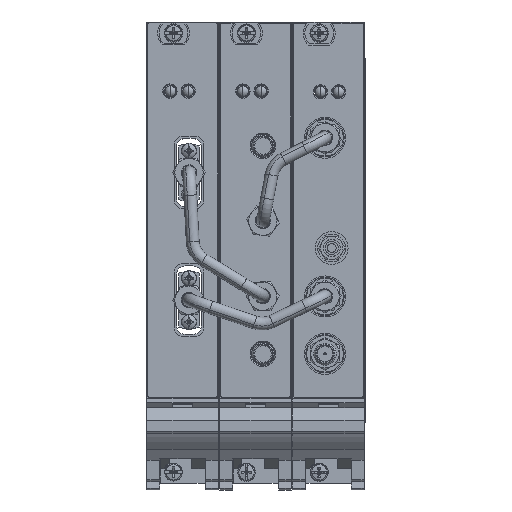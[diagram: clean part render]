
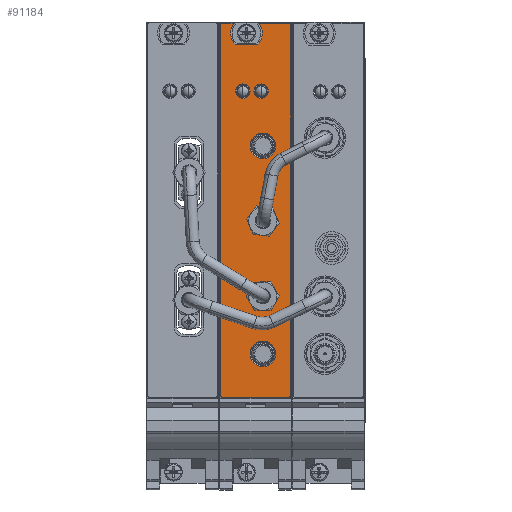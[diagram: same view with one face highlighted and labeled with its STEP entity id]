
A CAD part, top view. The second image highlights one B-rep face of the part: STEP entity #91184.
In plain terms, the highlighted planar face has unit normal (0, 0, 1).
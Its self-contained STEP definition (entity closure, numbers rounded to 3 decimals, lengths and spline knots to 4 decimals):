
#84187=CARTESIAN_POINT('',(1.466,4.2524,0.3575));
#84188=DIRECTION('',(0.,0.,1.));
#84189=DIRECTION('',(1.,0.,0.));
#84190=AXIS2_PLACEMENT_3D('',#84187,#84188,#84189);
#84192=DIRECTION('',(0.,1.,0.));
#84193=VECTOR('',#84192,4.07);
#84194=CARTESIAN_POINT('',(1.486,0.1824,0.3575));
#84195=LINE('',#84194,#84193);
#84196=CARTESIAN_POINT('',(1.466,0.1824,0.3575));
#84197=DIRECTION('',(0.,0.,1.));
#84198=DIRECTION('',(0.,-1.,0.));
#84199=AXIS2_PLACEMENT_3D('',#84196,#84197,#84198);
#84201=DIRECTION('',(1.,0.,0.));
#84202=VECTOR('',#84201,0.728);
#84203=CARTESIAN_POINT('',(0.738,0.1624,0.3575));
#84204=LINE('',#84203,#84202);
#84205=CARTESIAN_POINT('',(0.738,0.1824,0.3575));
#84206=DIRECTION('',(0.,0.,1.));
#84207=DIRECTION('',(-1.,0.,0.));
#84208=AXIS2_PLACEMENT_3D('',#84205,#84206,#84207);
#84210=DIRECTION('',(0.,-1.,0.));
#84211=VECTOR('',#84210,4.07);
#84212=CARTESIAN_POINT('',(0.718,4.2524,0.3575));
#84213=LINE('',#84212,#84211);
#84214=CARTESIAN_POINT('',(0.738,4.2524,0.3575));
#84215=DIRECTION('',(0.,0.,1.));
#84216=DIRECTION('',(0.,1.,0.));
#84217=AXIS2_PLACEMENT_3D('',#84214,#84215,#84216);
#84219=DIRECTION('',(-1.,0.,0.));
#84220=VECTOR('',#84219,0.1295);
#84221=CARTESIAN_POINT('',(0.8675,4.2724,
0.3575));
#84222=LINE('',#84221,#84220);
#84223=CARTESIAN_POINT('',(1.002,4.1604,0.3575));
#84224=DIRECTION('',(0.,0.,-1.));
#84225=DIRECTION('',(-0.676,-0.737,0.));
#84226=AXIS2_PLACEMENT_3D('',#84223,#84224,#84225);
#84228=DIRECTION('',(-1.,0.,0.));
#84229=VECTOR('',#84228,0.2365);
#84230=CARTESIAN_POINT('',(1.1202,4.0314,
0.3575));
#84231=LINE('',#84230,#84229);
#84232=CARTESIAN_POINT('',(1.002,4.1604,0.3575));
#84233=DIRECTION('',(0.,0.,-1.));
#84234=DIRECTION('',(0.768,0.64,0.));
#84235=AXIS2_PLACEMENT_3D('',#84232,#84233,#84234);
#84237=DIRECTION('',(-1.,0.,0.));
#84238=VECTOR('',#84237,0.3295);
#84239=CARTESIAN_POINT('',(1.466,4.2724,0.3575));
#84240=LINE('',#84239,#84238);
#84241=CARTESIAN_POINT('',(1.1823,0.64,0.3575));
#84242=DIRECTION('',(0.,0.,1.));
#84243=DIRECTION('',(0.,-1.,0.));
#84244=AXIS2_PLACEMENT_3D('',#84241,#84242,#84243);
#84246=CARTESIAN_POINT('',(1.1823,0.64,0.3575));
#84247=DIRECTION('',(0.,0.,1.));
#84248=DIRECTION('',(0.,1.,0.));
#84249=AXIS2_PLACEMENT_3D('',#84246,#84247,#84248);
#84251=CARTESIAN_POINT('',(1.1823,1.2699,0.3575));
#84252=DIRECTION('',(0.,0.,1.));
#84253=DIRECTION('',(0.,-1.,0.));
#84254=AXIS2_PLACEMENT_3D('',#84251,#84252,#84253);
#84256=CARTESIAN_POINT('',(1.1823,1.2699,0.3575));
#84257=DIRECTION('',(0.,0.,1.));
#84258=DIRECTION('',(0.,1.,0.));
#84259=AXIS2_PLACEMENT_3D('',#84256,#84257,#84258);
#84261=CARTESIAN_POINT('',(1.1823,2.0967,0.3575));
#84262=DIRECTION('',(0.,0.,1.));
#84263=DIRECTION('',(0.,-1.,0.));
#84264=AXIS2_PLACEMENT_3D('',#84261,#84262,#84263);
#84266=CARTESIAN_POINT('',(1.1823,2.0967,0.3575));
#84267=DIRECTION('',(0.,0.,1.));
#84268=DIRECTION('',(0.,1.,0.));
#84269=AXIS2_PLACEMENT_3D('',#84266,#84267,#84268);
#84271=CARTESIAN_POINT('',(1.1823,2.9234,0.3575));
#84272=DIRECTION('',(0.,0.,1.));
#84273=DIRECTION('',(0.,-1.,0.));
#84274=AXIS2_PLACEMENT_3D('',#84271,#84272,#84273);
#84276=CARTESIAN_POINT('',(1.1823,2.9234,0.3575));
#84277=DIRECTION('',(0.,0.,1.));
#84278=DIRECTION('',(0.,1.,0.));
#84279=AXIS2_PLACEMENT_3D('',#84276,#84277,#84278);
#84281=CARTESIAN_POINT('',(1.163,3.525,0.3575));
#84282=DIRECTION('',(0.,0.,1.));
#84283=DIRECTION('',(1.,0.,0.));
#84284=AXIS2_PLACEMENT_3D('',#84281,#84282,#84283);
#84286=CARTESIAN_POINT('',(1.163,3.525,0.3575));
#84287=DIRECTION('',(0.,0.,1.));
#84288=DIRECTION('',(-1.,0.,0.));
#84289=AXIS2_PLACEMENT_3D('',#84286,#84287,#84288);
#84291=CARTESIAN_POINT('',(0.963,3.525,0.3575));
#84292=DIRECTION('',(0.,0.,1.));
#84293=DIRECTION('',(1.,0.,0.));
#84294=AXIS2_PLACEMENT_3D('',#84291,#84292,#84293);
#84296=CARTESIAN_POINT('',(0.963,3.525,0.3575));
#84297=DIRECTION('',(0.,0.,1.));
#84298=DIRECTION('',(-1.,0.,0.));
#84299=AXIS2_PLACEMENT_3D('',#84296,#84297,#84298);
#86383=CARTESIAN_POINT('',(1.486,4.2524,0.3575));
#86384=CARTESIAN_POINT('',(1.466,4.2724,0.3575));
#86385=VERTEX_POINT('',#86383);
#86386=VERTEX_POINT('',#86384);
#86387=CARTESIAN_POINT('',(1.1365,4.2724,
0.3575));
#86388=VERTEX_POINT('',#86387);
#86389=CARTESIAN_POINT('',(1.1202,4.0314,
0.3575));
#86390=VERTEX_POINT('',#86389);
#86391=CARTESIAN_POINT('',(0.8837,4.0314,
0.3575));
#86392=VERTEX_POINT('',#86391);
#86393=CARTESIAN_POINT('',(0.8675,4.2724,
0.3575));
#86394=VERTEX_POINT('',#86393);
#86395=CARTESIAN_POINT('',(0.738,4.2724,0.3575));
#86396=VERTEX_POINT('',#86395);
#86397=CARTESIAN_POINT('',(0.718,4.2524,0.3575));
#86398=VERTEX_POINT('',#86397);
#86399=CARTESIAN_POINT('',(0.718,0.1824,0.3575));
#86400=VERTEX_POINT('',#86399);
#86401=CARTESIAN_POINT('',(0.738,0.1624,0.3575));
#86402=VERTEX_POINT('',#86401);
#86403=CARTESIAN_POINT('',(1.466,0.1624,0.3575));
#86404=VERTEX_POINT('',#86403);
#86405=CARTESIAN_POINT('',(1.486,0.1824,0.3575));
#86406=VERTEX_POINT('',#86405);
#86407=CARTESIAN_POINT('',(1.1823,0.5,0.3575));
#86408=CARTESIAN_POINT('',(1.1823,0.78,0.3575));
#86409=VERTEX_POINT('',#86407);
#86410=VERTEX_POINT('',#86408);
#86411=CARTESIAN_POINT('',(1.1823,1.1299,0.3575));
#86412=CARTESIAN_POINT('',(1.1823,1.4099,0.3575));
#86413=VERTEX_POINT('',#86411);
#86414=VERTEX_POINT('',#86412);
#86415=CARTESIAN_POINT('',(1.1823,1.9567,0.3575));
#86416=CARTESIAN_POINT('',(1.1823,2.2367,0.3575));
#86417=VERTEX_POINT('',#86415);
#86418=VERTEX_POINT('',#86416);
#86419=CARTESIAN_POINT('',(1.1823,2.7834,0.3575));
#86420=CARTESIAN_POINT('',(1.1823,3.0634,0.3575));
#86421=VERTEX_POINT('',#86419);
#86422=VERTEX_POINT('',#86420);
#86423=CARTESIAN_POINT('',(1.2415,3.525,0.3575));
#86424=CARTESIAN_POINT('',(1.0845,3.525,0.3575));
#86425=VERTEX_POINT('',#86423);
#86426=VERTEX_POINT('',#86424);
#86427=CARTESIAN_POINT('',(1.0415,3.525,0.3575));
#86428=CARTESIAN_POINT('',(0.8845,3.525,0.3575));
#86429=VERTEX_POINT('',#86427);
#86430=VERTEX_POINT('',#86428);
#91128=CARTESIAN_POINT('',(1.002,4.1604,0.3575));
#91129=DIRECTION('',(0.,0.,1.));
#91130=DIRECTION('',(1.,0.,0.));
#91131=AXIS2_PLACEMENT_3D('',#91128,#91129,#91130);
#91132=PLANE('',#91131);
#91133=ORIENTED_EDGE('',*,*,#89395,.F.);
#91135=ORIENTED_EDGE('',*,*,#91134,.F.);
#91136=ORIENTED_EDGE('',*,*,#90995,.F.);
#91137=ORIENTED_EDGE('',*,*,#91011,.F.);
#91138=ORIENTED_EDGE('',*,*,#91025,.F.);
#91139=ORIENTED_EDGE('',*,*,#91039,.F.);
#91140=ORIENTED_EDGE('',*,*,#91053,.F.);
#91141=ORIENTED_EDGE('',*,*,#91067,.F.);
#91142=ORIENTED_EDGE('',*,*,#91081,.F.);
#91143=ORIENTED_EDGE('',*,*,#91095,.F.);
#91144=ORIENTED_EDGE('',*,*,#91109,.F.);
#91145=ORIENTED_EDGE('',*,*,#91122,.F.);
#91146=EDGE_LOOP('',(#91133,#91135,#91136,#91137,#91138,#91139,#91140,#91141,
#91142,#91143,#91144,#91145));
#91147=FACE_OUTER_BOUND('',#91146,.F.);
#91149=ORIENTED_EDGE('',*,*,#91148,.T.);
#91151=ORIENTED_EDGE('',*,*,#91150,.T.);
#91152=EDGE_LOOP('',(#91149,#91151));
#91153=FACE_BOUND('',#91152,.F.);
#91155=ORIENTED_EDGE('',*,*,#91154,.T.);
#91157=ORIENTED_EDGE('',*,*,#91156,.T.);
#91158=EDGE_LOOP('',(#91155,#91157));
#91159=FACE_BOUND('',#91158,.F.);
#91161=ORIENTED_EDGE('',*,*,#91160,.T.);
#91163=ORIENTED_EDGE('',*,*,#91162,.T.);
#91164=EDGE_LOOP('',(#91161,#91163));
#91165=FACE_BOUND('',#91164,.F.);
#91167=ORIENTED_EDGE('',*,*,#91166,.T.);
#91169=ORIENTED_EDGE('',*,*,#91168,.T.);
#91170=EDGE_LOOP('',(#91167,#91169));
#91171=FACE_BOUND('',#91170,.F.);
#91173=ORIENTED_EDGE('',*,*,#91172,.T.);
#91175=ORIENTED_EDGE('',*,*,#91174,.T.);
#91176=EDGE_LOOP('',(#91173,#91175));
#91177=FACE_BOUND('',#91176,.F.);
#91179=ORIENTED_EDGE('',*,*,#91178,.T.);
#91181=ORIENTED_EDGE('',*,*,#91180,.T.);
#91182=EDGE_LOOP('',(#91179,#91181));
#91183=FACE_BOUND('',#91182,.F.);
#91184=ADVANCED_FACE('',(#91147,#91153,#91159,#91165,#91171,#91177,#91183),
#91132,.T.);
#84191=CIRCLE('',#84190,0.02);
#84200=CIRCLE('',#84199,0.02);
#84209=CIRCLE('',#84208,0.02);
#84218=CIRCLE('',#84217,0.02);
#84227=CIRCLE('',#84226,0.175);
#84236=CIRCLE('',#84235,0.175);
#84245=CIRCLE('',#84244,0.14);
#84250=CIRCLE('',#84249,0.14);
#84255=CIRCLE('',#84254,0.14);
#84260=CIRCLE('',#84259,0.14);
#84265=CIRCLE('',#84264,0.14);
#84270=CIRCLE('',#84269,0.14);
#84275=CIRCLE('',#84274,0.14);
#84280=CIRCLE('',#84279,0.14);
#84285=CIRCLE('',#84284,0.0785);
#84290=CIRCLE('',#84289,0.0785);
#84295=CIRCLE('',#84294,0.0785);
#84300=CIRCLE('',#84299,0.0785);
#89395=EDGE_CURVE('',#86385,#86386,#84191,.T.);
#90995=EDGE_CURVE('',#86404,#86406,#84200,.T.);
#91011=EDGE_CURVE('',#86402,#86404,#84204,.T.);
#91025=EDGE_CURVE('',#86400,#86402,#84209,.T.);
#91039=EDGE_CURVE('',#86398,#86400,#84213,.T.);
#91053=EDGE_CURVE('',#86396,#86398,#84218,.T.);
#91067=EDGE_CURVE('',#86394,#86396,#84222,.T.);
#91081=EDGE_CURVE('',#86392,#86394,#84227,.T.);
#91095=EDGE_CURVE('',#86390,#86392,#84231,.T.);
#91109=EDGE_CURVE('',#86388,#86390,#84236,.T.);
#91122=EDGE_CURVE('',#86386,#86388,#84240,.T.);
#91134=EDGE_CURVE('',#86406,#86385,#84195,.T.);
#91148=EDGE_CURVE('',#86409,#86410,#84245,.T.);
#91150=EDGE_CURVE('',#86410,#86409,#84250,.T.);
#91154=EDGE_CURVE('',#86413,#86414,#84255,.T.);
#91156=EDGE_CURVE('',#86414,#86413,#84260,.T.);
#91160=EDGE_CURVE('',#86417,#86418,#84265,.T.);
#91162=EDGE_CURVE('',#86418,#86417,#84270,.T.);
#91166=EDGE_CURVE('',#86421,#86422,#84275,.T.);
#91168=EDGE_CURVE('',#86422,#86421,#84280,.T.);
#91172=EDGE_CURVE('',#86425,#86426,#84285,.T.);
#91174=EDGE_CURVE('',#86426,#86425,#84290,.T.);
#91178=EDGE_CURVE('',#86429,#86430,#84295,.T.);
#91180=EDGE_CURVE('',#86430,#86429,#84300,.T.);
